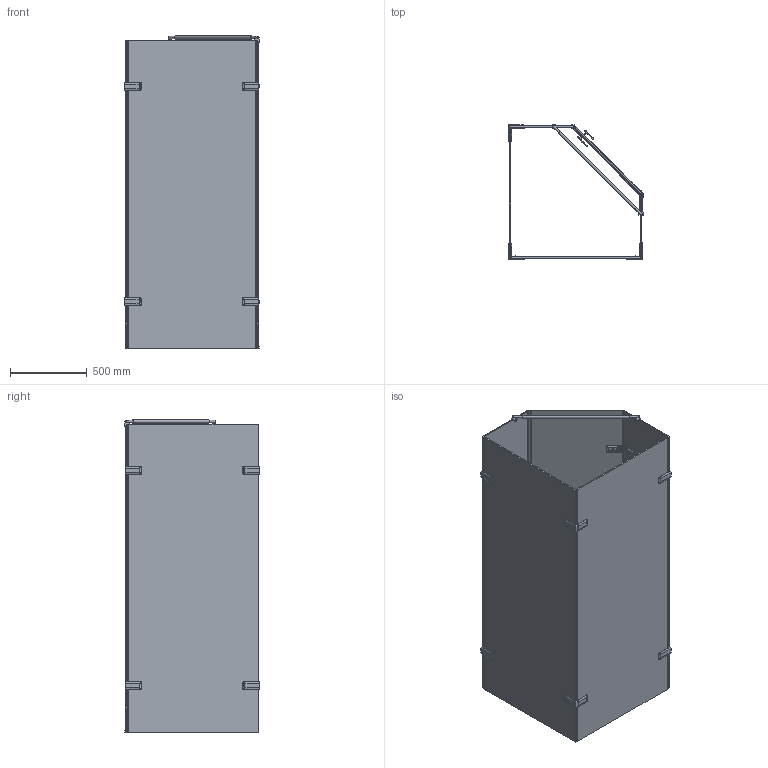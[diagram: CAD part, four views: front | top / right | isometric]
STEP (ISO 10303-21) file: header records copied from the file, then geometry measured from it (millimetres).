
FILE_DESCRIPTION(/* description */ (''),/* implementation_level */ '2;1');
FILE_NAME(/* name */ 'E:\Работа\Сергей\Душевые кабинки\! Работа\51\TREND GK-885F\TREND GK-885F левая модель\TREND GK-885F ЛЕВАЯ-3D.stp',/* time_stamp */ '2018-11-27T21:38:40+03:00',/* author */ ('PC'),/* organization */ (''),/* preprocessor_version */ 'ST-DEVELOPER v15.2',/* originating_system */ 'Autodesk Inventor 2014',/* authorisation */ '');
FILE_SCHEMA (('CONFIG_CONTROL_DESIGN'));
Products named in the file (1): TREND GK-885F ЛЕВАЯ-3D
Bounding box: 877.21 x 877.72 x 2028.5 mm (x, y, z)
Volume: 49307323.1 mm3; surface area: 13157383.1 mm2
Topology: 9 solids, 9 shells, 1652 faces, 4330 edges, 2637 vertices
Faces by surface type: plane 914, cylinder 413, bspline 214, torus 68, sphere 25, cone 18
Full cylindrical faces by diameter (mm): 6 x2, 9 x8, 13 x2, 15 x2, 20 x3
Entity records: 71520 total; most frequent: CARTESIAN_POINT 30652, ORIENTED_EDGE 8340, DIRECTION 7776, EDGE_CURVE 4170, VERTEX_POINT 2615, AXIS2_PLACEMENT_3D 2609, LINE 2558, VECTOR 2558
